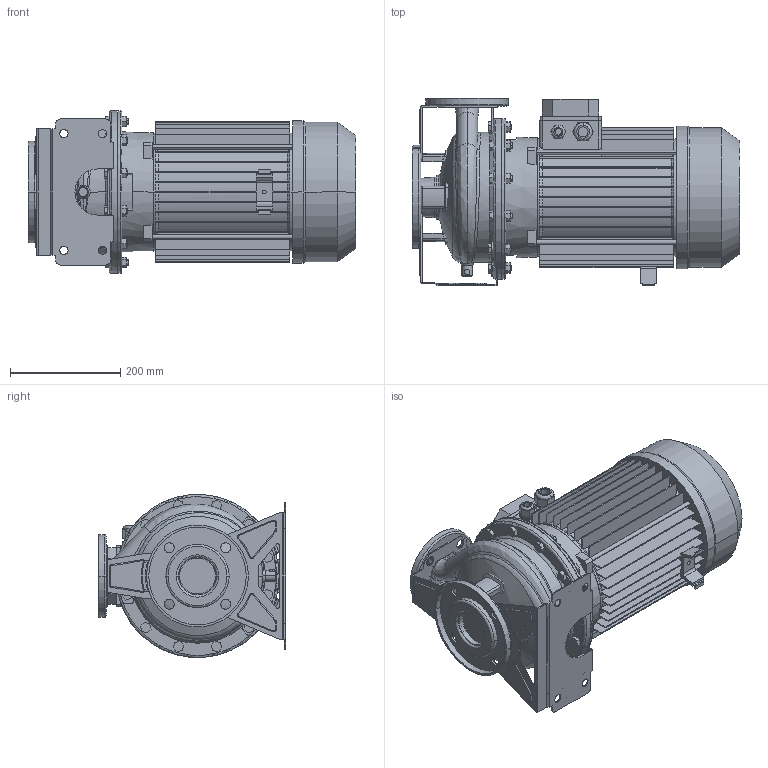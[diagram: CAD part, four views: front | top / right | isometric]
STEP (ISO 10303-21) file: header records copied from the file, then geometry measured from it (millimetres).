
FILE_DESCRIPTION((''),'2;1');
FILE_NAME('3M_40-200_11_IE2_IE3_ASM_ASM','2020-10-30T13:30:48',('Bertolani'),('"Ebara Pumps Europe +39.444.706811"'),'CREO PARAMETRIC BY PTC INC, 2016390','CREO PARAMETRIC BY PTC INC, 2016390','');
FILE_SCHEMA(('AUTOMOTIVE_DESIGN { 1 0 10303 214 1 1 1 1 }'));
Length unit declared in the file: millimetre
Products named in the file (16): CORPO_40-200_AF0_143; ASP_40-200_17_1; ASP_40-200_17_2; ASP_40-200_17_3; ASP_40-200_17_4; ASP_40-200_17_ASM; FLANGIA_DIN_65_19; MAND_40-200_231; FLANGIA_DIN_40_19; BASE_3M_40-200_121; CORPO_SALDATO_40-200_ASM_100_ASM; SUPPORTO_3M_230_132_141; MEC_132X170_190_IE2_7; SOSTEGNO_72010_12; 3M_40-200_11_IE2_IE3_ASM_119_ASM; 3M_40-200_11_IE2_IE3_ASM_ASM
Assembly tree (15 placements, depth 5):
  3M_40-200_11_IE2_IE3_ASM_ASM
    3M_40-200_11_IE2_IE3_ASM_119_ASM
      CORPO_SALDATO_40-200_ASM_100_ASM
        CORPO_40-200_AF0_143
        ASP_40-200_17_ASM
          ASP_40-200_17_1
          ASP_40-200_17_2
          ASP_40-200_17_3
          ASP_40-200_17_4
        FLANGIA_DIN_65_19
        MAND_40-200_231
        FLANGIA_DIN_40_19
        BASE_3M_40-200_121
      SUPPORTO_3M_230_132_141
      MEC_132X170_190_IE2_7
      SOSTEGNO_72010_12
Bounding box: 595 x 340 x 295.54 mm (x, y, z)
Volume: 15789663.4 mm3; surface area: 1780941.7 mm2
Topology: 12 solids, 12 shells, 1122 faces, 2887 edges, 1863 vertices
Faces by surface type: plane 613, cylinder 317, cone 94, torus 62, bspline 30, sphere 6
Entity records: 50707 total; most frequent: CARTESIAN_POINT 8979, DIRECTION 6129, ORIENTED_EDGE 5772, PRESENTATION_STYLE_ASSIGNMENT 2898, STYLED_ITEM 2898, CURVE_STYLE 2886, EDGE_CURVE 2886, AXIS2_PLACEMENT_3D 2236
